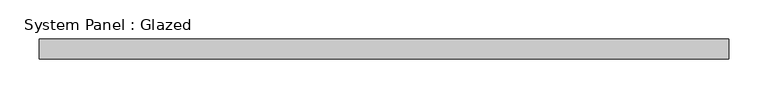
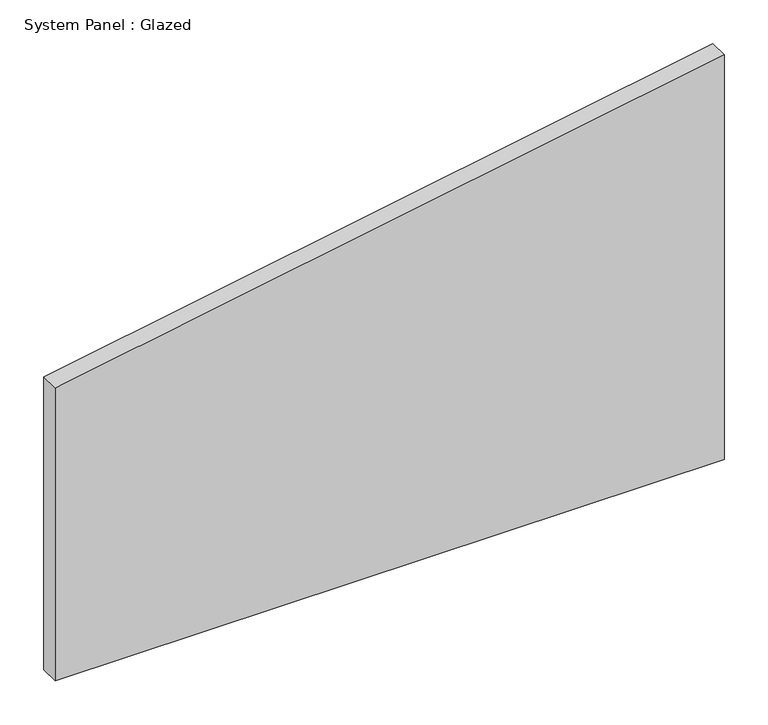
"""IFC4 building model written with IfcOpenShell, lengths in millimetres: plate geometry, System Panel : Glazed."""

import ifcopenshell
import ifcopenshell.guid

model = None  # the IFC model being written
_history = None  # IfcOwnerHistory: only IFC2X3 demands one
_inside = {}  # id of a spatial element -> (the spatial element, [elements in it])
_under = {}  # id of a project, library or spatial element -> (it, [spatial elements below it])
_declared = {}  # id of a project -> (the project, [libraries it declares])
_typed = {}  # id of a type object -> (the type object, [elements of that type])
_made_of = {}  # id of a material, layer set ... -> (it, [elements and type objects made of it])


def new_model(schema):
    """Start an empty IFC model of exactly this schema.

    Asked for "IFC4X3", IfcOpenShell would pick the latest addendum, in which some entities
    have other attributes; the version numbers below select the first issue.
    IFC2X3 requires an IfcOwnerHistory on every rooted entity: one is made here for all.
    """
    global model, _history
    if schema == "IFC4X3":
        model = ifcopenshell.file(schema_version=(4, 3, 0, 0))
    else:
        model = ifcopenshell.file(schema=schema)
    _inside.clear()
    _under.clear()
    _declared.clear()
    _typed.clear()
    _made_of.clear()
    _history = None
    if model.schema == "IFC2X3":
        org = make("IfcOrganization", Name="unknown")
        user = make(
            "IfcPersonAndOrganization",
            ThePerson=make("IfcPerson", FamilyName="unknown"),
            TheOrganization=org,
        )
        app = make(
            "IfcApplication",
            ApplicationDeveloper=org,
            Version="unknown",
            ApplicationFullName="unknown",
            ApplicationIdentifier="unknown",
        )
        _history = make(
            "IfcOwnerHistory",
            OwningUser=user,
            OwningApplication=app,
            ChangeAction="ADDED",
            CreationDate=0,
        )
    return model


def make(cls, **values):
    """One entity of the class cls with the attributes given. An attribute that is None is left unset."""
    return model.create_entity(
        cls, **{name: value for name, value in values.items() if value is not None}
    )


def rooted(cls, **values):
    """An entity with a GlobalId (a new one), such as an element, a storey or a relation."""
    return make(cls, GlobalId=ifcopenshell.guid.new(), OwnerHistory=_history, **values)


def si_unit(unit_type, name, prefix=None):
    """IfcSIUnit, for example si_unit("LENGTHUNIT", "METRE", prefix="MILLI")."""
    return make("IfcSIUnit", UnitType=unit_type, Prefix=prefix, Name=name)


def assignment(units):
    """IfcUnitAssignment: the units of a project."""
    return None if units is None else make("IfcUnitAssignment", Units=units)


def point(xyz):
    """IfcCartesianPoint."""
    return None if xyz is None else make("IfcCartesianPoint", Coordinates=xyz)


def direction(xyz):
    """IfcDirection."""
    return None if xyz is None else make("IfcDirection", DirectionRatios=xyz)


def frame(location, z_axis=None, x_axis=None):
    """IfcAxis2Placement3D, a coordinate frame: its origin and axes. An axis left out is left unset."""
    return make(
        "IfcAxis2Placement3D",
        Location=point(location),
        Axis=direction(z_axis),
        RefDirection=direction(x_axis),
    )


def origin():
    """The frame at (0, 0, 0) with its axes left unset."""
    return frame((0.0, 0.0, 0.0))


def place(relative_to, where):
    """IfcLocalPlacement: puts the frame where relative to a parent placement (None: the world)."""
    return make(
        "IfcLocalPlacement", PlacementRelTo=relative_to, RelativePlacement=where
    )


def context(
    kind, dimensions, precision=None, world=None, true_north=None, identifier=None
):
    """IfcGeometricRepresentationContext, for example the 3D "Model" context."""
    return make(
        "IfcGeometricRepresentationContext",
        ContextIdentifier=identifier,
        ContextType=kind,
        CoordinateSpaceDimension=dimensions,
        Precision=precision,
        WorldCoordinateSystem=world,
        TrueNorth=true_north,
    )


def project(units=None, contexts=None):
    """IfcProject with its units and contexts."""
    return rooted(
        "IfcProject",
        Name="project",
        RepresentationContexts=contexts,
        UnitsInContext=assignment(units),
    )


def spatial(cls, under=None, at=None, **own):
    """A site, building, storey or space (cls), placed at a placement, below another one or the project."""
    s = rooted(cls, ObjectPlacement=at, **own)
    if under is not None:
        _under.setdefault(under.id(), (under, []))[1].append(s)
    return s


def polyline(points):
    """IfcPolyline through the points."""
    return make("IfcPolyline", Points=[point(p) for p in points])


def outline(outer, holes=None, kind="AREA"):
    """IfcArbitraryClosedProfileDef: a profile drawn as a closed curve; with holes, ...WithVoids."""
    if holes is None:
        return make("IfcArbitraryClosedProfileDef", ProfileType=kind, OuterCurve=outer)
    return make(
        "IfcArbitraryProfileDefWithVoids",
        ProfileType=kind,
        OuterCurve=outer,
        InnerCurves=holes,
    )


def extrude(swept, where, along, depth):
    """IfcExtrudedAreaSolid: the profile swept, set in the frame where, extruded along a direction by depth."""
    return make(
        "IfcExtrudedAreaSolid",
        SweptArea=swept,
        Position=where,
        ExtrudedDirection=direction(along),
        Depth=depth,
    )


def shape(context_of_items, identifier, shape_type, items):
    """IfcShapeRepresentation: the items that make up one representation, for example the "Body"."""
    return make(
        "IfcShapeRepresentation",
        ContextOfItems=context_of_items,
        RepresentationIdentifier=identifier,
        RepresentationType=shape_type,
        Items=items,
    )


def source(mapping_origin, context_of_items, identifier, shape_type, items):
    """IfcRepresentationMap: a shape defined once, which mapped items show again and again."""
    return make(
        "IfcRepresentationMap",
        MappingOrigin=mapping_origin,
        MappedRepresentation=shape(context_of_items, identifier, shape_type, items),
    )


def transform(
    local_origin,
    x_axis=None,
    y_axis=None,
    z_axis=None,
    scale=None,
    scale2=None,
    scale3=None,
    uniform=True,
):
    """IfcCartesianTransformationOperator3D, or its non-uniform kind. x_axis, y_axis, z_axis: its Axis1, 2, 3."""
    if uniform:
        return make(
            "IfcCartesianTransformationOperator3D",
            Axis1=direction(x_axis),
            Axis2=direction(y_axis),
            LocalOrigin=point(local_origin),
            Scale=scale,
            Axis3=direction(z_axis),
        )
    return make(
        "IfcCartesianTransformationOperator3DnonUniform",
        Axis1=direction(x_axis),
        Axis2=direction(y_axis),
        LocalOrigin=point(local_origin),
        Scale=scale,
        Axis3=direction(z_axis),
        Scale2=scale2,
        Scale3=scale3,
    )


def mapped(mapping_source, mapping_target):
    """IfcMappedItem: shows the shape of a source again, moved by a transform."""
    return make(
        "IfcMappedItem", MappingSource=mapping_source, MappingTarget=mapping_target
    )


def made_of(thing, what):
    """Note that an element or type object is made of a material, layer set ...; save() writes the relation."""
    if what is not None:
        _made_of.setdefault(what.id(), (what, []))[1].append(thing)
    return thing


def element(
    cls,
    number,
    at=None,
    inside=None,
    cuts=None,
    type_object=None,
    material=None,
    context=None,
    identifier="Body",
    shape_type=None,
    held_by="IfcProductDefinitionShape",
    body=None,
    shapes=None,
    **own,
):
    """One element of the class cls, such as IfcWall. Its Tag is "e" and its number.

    at: its placement. inside: the storey or other place that contains it. cuts: it is an
    opening in that element (IfcRelVoidsElement). A single representation is given by context,
    identifier, shape_type and body (its items); several are given by shapes. held_by: the class
    of the entity that holds the representations. save() writes the other relations.
    """
    e = rooted(cls, Tag="e%d" % number, ObjectPlacement=at, **own)
    if body is not None:
        shapes = [shape(context, identifier, shape_type, body)]
    if shapes is not None:
        e.Representation = make(held_by, Representations=shapes)
    if inside is not None:
        _inside.setdefault(inside.id(), (inside, []))[1].append(e)
    if cuts is not None:
        rooted(
            "IfcRelVoidsElement", RelatingBuildingElement=cuts, RelatedOpeningElement=e
        )
    if type_object is not None:
        _typed.setdefault(type_object.id(), (type_object, []))[1].append(e)
    return made_of(e, material)


def aggregate(whole, parts):
    """IfcRelAggregates: a whole, such as a stair, and the parts it consists of."""
    return rooted("IfcRelAggregates", RelatingObject=whole, RelatedObjects=parts)


def save(model, path):
    """Write the relations noted so far, then the file.

    IfcRelAggregates (storeys below a building ...), IfcRelContainedInSpatialStructure (elements
    in a storey), IfcRelDefinesByType, IfcRelAssociatesMaterial and IfcRelDeclares: one each for
    every whole, place, type object, material and project.
    """
    for whole, parts in _under.values():
        aggregate(whole, parts)
    for where, things in _inside.values():
        rooted(
            "IfcRelContainedInSpatialStructure",
            RelatedElements=things,
            RelatingStructure=where,
        )
    for kind, things in _typed.values():
        rooted("IfcRelDefinesByType", RelatedObjects=things, RelatingType=kind)
    for what, things in _made_of.values():
        rooted("IfcRelAssociatesMaterial", RelatedObjects=things, RelatingMaterial=what)
    for by, libraries in _declared.values():
        rooted("IfcRelDeclares", RelatingContext=by, RelatedDefinitions=libraries)
    model.write(path)


def system_panel_glazed_19ddb9a8(model_context):
    return source(origin(), model_context, "Body", "SweptSolid", [
        extrude(outline(polyline([(0.0, -440.1829802), (0.0, 440.1829802), (563.2916809, 440.1829802), (408.0594092, -440.1829802), (0.0, -440.1829802)])), frame((0.0, 19.05, 0.0), z_axis=(0.0, 1.0, 0.0), x_axis=(0.0, 0.0, 1.0)), (0.0, 0.0, 1.0), 25.4),
    ])


if __name__ == "__main__":
    model = new_model("IFC4")
    model_context = context("Model", 3, world=origin())
    ifc_project = project(units=[si_unit("LENGTHUNIT", "METRE", prefix="MILLI")], contexts=[model_context])
    site = spatial("IfcSite", under=ifc_project)
    building = spatial("IfcBuilding", under=site)
    placement = place(None, origin())
    system_panel_glazed_shape = system_panel_glazed_19ddb9a8(model_context)
    element("IfcPlate", 1, ObjectType="System Panel : Glazed", at=placement, inside=building, context=model_context, shape_type="MappedRepresentation", body=[
        mapped(system_panel_glazed_shape, transform((0.0, 0.0, 0.0), x_axis=(1.0, 0.0, 0.0), y_axis=(0.0, 1.0, 0.0), z_axis=(0.0, 0.0, 1.0))),
    ])
    save(model, "model.ifc")
